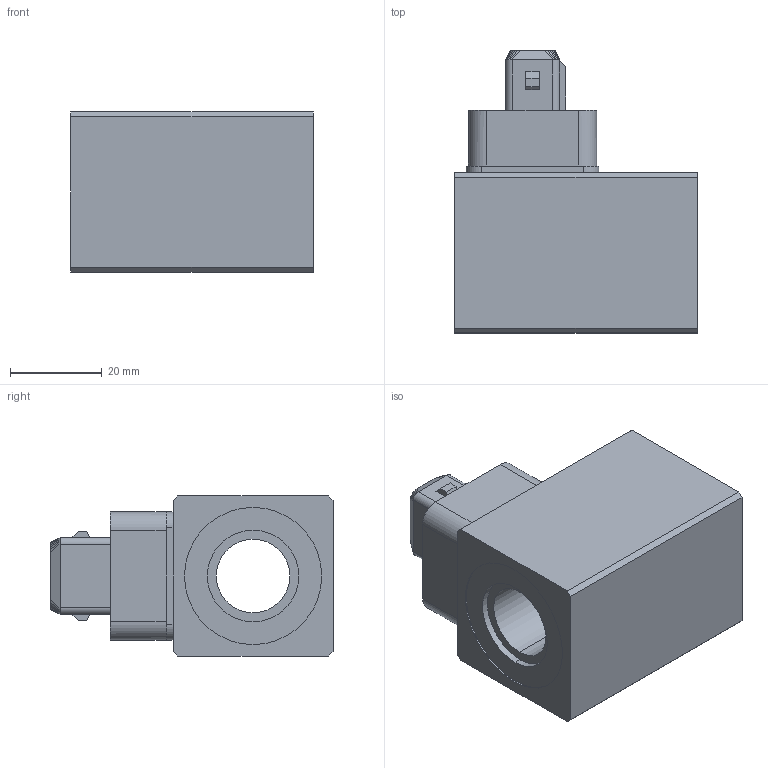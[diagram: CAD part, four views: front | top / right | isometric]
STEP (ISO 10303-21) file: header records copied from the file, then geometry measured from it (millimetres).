
FILE_DESCRIPTION (( 'STEP AP214' ), '1' );
FILE_NAME ('MJS35_16x50.STEP', '2015-07-06T14:15:10', ( '' ), ( '' ), 'SwSTEP 2.0', 'SolidWorks 2014', '' );
FILE_SCHEMA (( 'AUTOMOTIVE_DESIGN' ));
Length unit declared in the file: millimetre
Products named in the file (2): MJS35_16x50
Bounding box: 53 x 61.7 x 35 mm (x, y, z)
Volume: 62804.7 mm3; surface area: 19255.9 mm2
Topology: 4 solids, 5 shells, 336 faces, 865 edges, 565 vertices
Faces by surface type: plane 239, cylinder 87, cone 4, bspline 4, torus 2
Entity records: 14071 total; most frequent: CARTESIAN_POINT 2192, ORIENTED_EDGE 1730, DIRECTION 1667, EDGE_CURVE 865, LINE 625, VECTOR 625, VERTEX_POINT 565, AXIS2_PLACEMENT_3D 521
